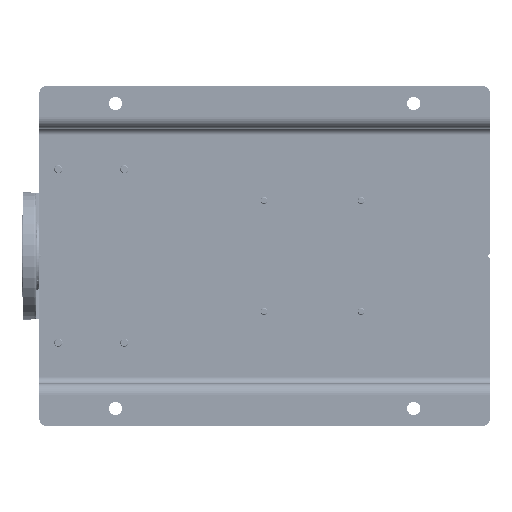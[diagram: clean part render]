
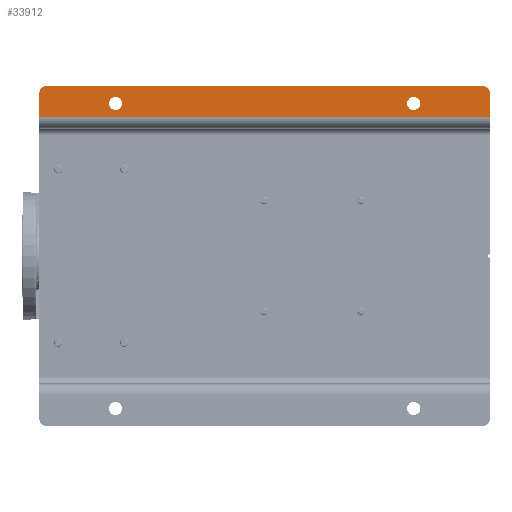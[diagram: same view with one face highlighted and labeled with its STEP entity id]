
A CAD part, front view. The second image highlights one B-rep face of the part: STEP entity #33912.
In plain terms, the highlighted planar face has unit normal (0, -1, 0).
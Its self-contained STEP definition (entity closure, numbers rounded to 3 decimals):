
#1871 = EDGE_CURVE ( 'NONE', #113619, #129460, #76038, .T. ) ;
#7019 = CARTESIAN_POINT ( 'NONE',  ( 490., 0., -640. ) ) ;
#8085 = CARTESIAN_POINT ( 'NONE',  ( 445., 0., -650. ) ) ;
#8837 = CARTESIAN_POINT ( 'NONE',  ( 480., 0., -10. ) ) ;
#9627 = DIRECTION ( 'NONE',  ( 0., 0., 1. ) ) ;
#9862 = CARTESIAN_POINT ( 'NONE',  ( 429., 0., -650. ) ) ;
#11771 = VECTOR ( 'NONE', #120177, 1000. ) ;
#12599 = AXIS2_PLACEMENT_3D ( 'NONE', #66188, #52215, #109010 ) ;
#14322 = EDGE_CURVE ( 'NONE', #113998, #89901, #143368, .T. ) ;
#14347 = AXIS2_PLACEMENT_3D ( 'NONE', #148892, #108805, #37098 ) ;
#15101 = EDGE_CURVE ( 'NONE', #95595, #113619, #70164, .T. ) ;
#15574 = EDGE_CURVE ( 'NONE', #95595, #103248, #164863, .T. ) ;
#18304 = DIRECTION ( 'NONE',  ( 0., 0., -1. ) ) ;
#20709 = EDGE_LOOP ( 'NONE', ( #175785, #73373 ) ) ;
#23529 = CARTESIAN_POINT ( 'NONE',  ( 490., 0., -10. ) ) ;
#25469 = VECTOR ( 'NONE', #9627, 1000. ) ;
#32897 = CARTESIAN_POINT ( 'NONE',  ( 465., 0., -540. ) ) ;
#33912 = ADVANCED_FACE ( 'NONE', ( #96439, #137468, #179365 ), #109500, .T. ) ;
#37098 = DIRECTION ( 'NONE',  ( 0., 0., -1. ) ) ;
#37285 = ORIENTED_EDGE ( 'NONE', *, *, #162527, .T. ) ;
#37574 = LINE ( 'NONE', #94388, #25469 ) ;
#39013 = CARTESIAN_POINT ( 'NONE',  ( 455.5, 0., -540. ) ) ;
#42483 = VERTEX_POINT ( 'NONE', #161031 ) ;
#48627 = CIRCLE ( 'NONE', #81329, 10. ) ;
#48738 = DIRECTION ( 'NONE',  ( 0., 0., -1. ) ) ;
#48756 = ORIENTED_EDGE ( 'NONE', *, *, #14322, .T. ) ;
#52215 = DIRECTION ( 'NONE',  ( 0., -1., 0. ) ) ;
#55075 = ORIENTED_EDGE ( 'NONE', *, *, #90575, .T. ) ;
#58028 = CARTESIAN_POINT ( 'NONE',  ( 474.5, 0., -110. ) ) ;
#62659 = ORIENTED_EDGE ( 'NONE', *, *, #1871, .T. ) ;
#63240 = VECTOR ( 'NONE', #171632, 1000. ) ;
#66188 = CARTESIAN_POINT ( 'NONE',  ( 480., 0., -640. ) ) ;
#67871 = VERTEX_POINT ( 'NONE', #23529 ) ;
#68887 = EDGE_CURVE ( 'NONE', #42483, #104414, #94671, .T. ) ;
#70164 = LINE ( 'NONE', #114848, #63240 ) ;
#71170 = EDGE_CURVE ( 'NONE', #89901, #113998, #178275, .T. ) ;
#72005 = CIRCLE ( 'NONE', #12599, 10. ) ;
#73373 = ORIENTED_EDGE ( 'NONE', *, *, #111741, .T. ) ;
#75111 = CARTESIAN_POINT ( 'NONE',  ( 445., 0., 0. ) ) ;
#76038 = LINE ( 'NONE', #93658, #174756 ) ;
#81329 = AXIS2_PLACEMENT_3D ( 'NONE', #8837, #166208, #164397 ) ;
#82315 = EDGE_LOOP ( 'NONE', ( #48756, #88047 ) ) ;
#82454 = DIRECTION ( 'NONE',  ( 0., -1., 0. ) ) ;
#84357 = CIRCLE ( 'NONE', #161667, 9.5 ) ;
#88047 = ORIENTED_EDGE ( 'NONE', *, *, #71170, .T. ) ;
#89901 = VERTEX_POINT ( 'NONE', #135295 ) ;
#90575 = EDGE_CURVE ( 'NONE', #67871, #103248, #48627, .T. ) ;
#90675 = DIRECTION ( 'NONE',  ( 0., 1., 0. ) ) ;
#91756 = ORIENTED_EDGE ( 'NONE', *, *, #15574, .F. ) ;
#91985 = ORIENTED_EDGE ( 'NONE', *, *, #15101, .T. ) ;
#93658 = CARTESIAN_POINT ( 'NONE',  ( 429., 0., -650. ) ) ;
#94388 = CARTESIAN_POINT ( 'NONE',  ( 490., 0., -650. ) ) ;
#94671 = CIRCLE ( 'NONE', #14347, 9.5 ) ;
#95595 = VERTEX_POINT ( 'NONE', #75111 ) ;
#96439 = FACE_BOUND ( 'NONE', #20709, .T. ) ;
#103248 = VERTEX_POINT ( 'NONE', #125818 ) ;
#104414 = VERTEX_POINT ( 'NONE', #58028 ) ;
#107686 = CARTESIAN_POINT ( 'NONE',  ( 465., 0., -540. ) ) ;
#108805 = DIRECTION ( 'NONE',  ( 0., 1., 0. ) ) ;
#109010 = DIRECTION ( 'NONE',  ( 0., 0., -1. ) ) ;
#109500 = PLANE ( 'NONE',  #126042 ) ;
#111741 = EDGE_CURVE ( 'NONE', #104414, #42483, #84357, .T. ) ;
#113619 = VERTEX_POINT ( 'NONE', #8085 ) ;
#113998 = VERTEX_POINT ( 'NONE', #39013 ) ;
#114848 = CARTESIAN_POINT ( 'NONE',  ( 445., 0., -650. ) ) ;
#120177 = DIRECTION ( 'NONE',  ( 1., 0., 0. ) ) ;
#120390 = EDGE_LOOP ( 'NONE', ( #91756, #91985, #62659, #153528, #37285, #55075 ) ) ;
#125818 = CARTESIAN_POINT ( 'NONE',  ( 480., 0., 0. ) ) ;
#126042 = AXIS2_PLACEMENT_3D ( 'NONE', #9862, #82454, #181182 ) ;
#129460 = VERTEX_POINT ( 'NONE', #143498 ) ;
#131964 = DIRECTION ( 'NONE',  ( 0., 1., 0. ) ) ;
#135295 = CARTESIAN_POINT ( 'NONE',  ( 474.5, 0., -540. ) ) ;
#136704 = AXIS2_PLACEMENT_3D ( 'NONE', #107686, #131964, #18304 ) ;
#137468 = FACE_BOUND ( 'NONE', #82315, .T. ) ;
#143368 = CIRCLE ( 'NONE', #179140, 9.5 ) ;
#143498 = CARTESIAN_POINT ( 'NONE',  ( 480., 0., -650. ) ) ;
#144702 = CARTESIAN_POINT ( 'NONE',  ( 465., 0., -110. ) ) ;
#146530 = DIRECTION ( 'NONE',  ( 0., 1., 0. ) ) ;
#147490 = DIRECTION ( 'NONE',  ( 0., 0., -1. ) ) ;
#147734 = DIRECTION ( 'NONE',  ( 1., 0., 0. ) ) ;
#148892 = CARTESIAN_POINT ( 'NONE',  ( 465., 0., -110. ) ) ;
#150871 = CARTESIAN_POINT ( 'NONE',  ( 429., 0., 0. ) ) ;
#153528 = ORIENTED_EDGE ( 'NONE', *, *, #178360, .T. ) ;
#157841 = VERTEX_POINT ( 'NONE', #7019 ) ;
#161031 = CARTESIAN_POINT ( 'NONE',  ( 455.5, 0., -110. ) ) ;
#161667 = AXIS2_PLACEMENT_3D ( 'NONE', #144702, #90675, #147490 ) ;
#162527 = EDGE_CURVE ( 'NONE', #157841, #67871, #37574, .T. ) ;
#164397 = DIRECTION ( 'NONE',  ( 0., 0., -1. ) ) ;
#164863 = LINE ( 'NONE', #150871, #11771 ) ;
#166208 = DIRECTION ( 'NONE',  ( 0., -1., 0. ) ) ;
#171632 = DIRECTION ( 'NONE',  ( 0., 0., -1. ) ) ;
#174756 = VECTOR ( 'NONE', #147734, 1000. ) ;
#175785 = ORIENTED_EDGE ( 'NONE', *, *, #68887, .T. ) ;
#178275 = CIRCLE ( 'NONE', #136704, 9.5 ) ;
#178360 = EDGE_CURVE ( 'NONE', #129460, #157841, #72005, .T. ) ;
#179140 = AXIS2_PLACEMENT_3D ( 'NONE', #32897, #146530, #48738 ) ;
#179365 = FACE_OUTER_BOUND ( 'NONE', #120390, .T. ) ;
#181182 = DIRECTION ( 'NONE',  ( 0., 0., -1. ) ) ;
